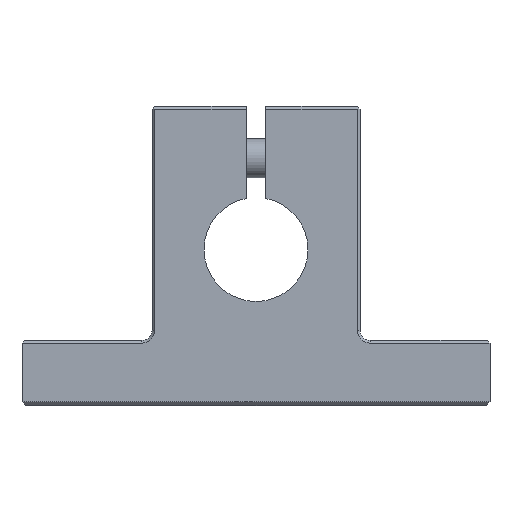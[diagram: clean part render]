
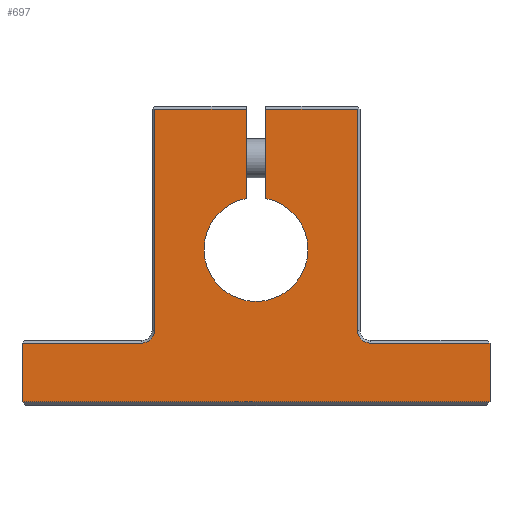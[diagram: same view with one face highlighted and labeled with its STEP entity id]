
A CAD part, left-side view. The second image highlights one B-rep face of the part: STEP entity #697.
In plain terms, the highlighted planar face has unit normal (-1, 0, 0).
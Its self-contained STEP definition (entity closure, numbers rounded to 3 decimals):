
#441=CARTESIAN_POINT('',(0.0,-18.,-11.7));
#442=VERTEX_POINT('',#441);
#443=CARTESIAN_POINT('',(0.0,18.,-11.7));
#444=VERTEX_POINT('',#443);
#445=CARTESIAN_POINT('',(0.0,-18.,-11.7));
#446=DIRECTION('',(0.0,1.0,0.0));
#447=VECTOR('',#446,36.);
#448=LINE('',#445,#447);
#449=EDGE_CURVE('',#442,#444,#448,.T.);
#566=CARTESIAN_POINT('',(0.0,18.,-7.2));
#567=VERTEX_POINT('',#566);
#568=CARTESIAN_POINT('',(0.0,18.,-11.7));
#569=DIRECTION('',(0.0,0.0,1.0));
#570=VECTOR('',#569,4.5);
#571=LINE('',#568,#570);
#572=EDGE_CURVE('',#444,#567,#571,.T.);
#591=CARTESIAN_POINT('',(0.0,0.0,-2.118));
#592=DIRECTION('',(1.0,0.0,0.0));
#593=DIRECTION('',(0.0,0.0,-1.0));
#594=AXIS2_PLACEMENT_3D('',#591,#592,#593);
#595=PLANE('',#594);
#596=ORIENTED_EDGE('',*,*,#449,.F.);
#597=CARTESIAN_POINT('',(0.0,-18.,-7.2));
#598=VERTEX_POINT('',#597);
#599=CARTESIAN_POINT('',(0.0,-18.,-7.2));
#600=DIRECTION('',(0.0,0.0,-1.0));
#601=VECTOR('',#600,4.5);
#602=LINE('',#599,#601);
#603=EDGE_CURVE('',#598,#442,#602,.T.);
#604=ORIENTED_EDGE('',*,*,#603,.F.);
#605=CARTESIAN_POINT('',(0.0,-8.8,-7.2));
#606=VERTEX_POINT('',#605);
#607=CARTESIAN_POINT('',(0.0,-8.8,-7.2));
#608=DIRECTION('',(0.0,-1.0,0.0));
#609=VECTOR('',#608,9.2);
#610=LINE('',#607,#609);
#611=EDGE_CURVE('',#606,#598,#610,.T.);
#612=ORIENTED_EDGE('',*,*,#611,.F.);
#613=CARTESIAN_POINT('',(0.0,-7.8,-6.2));
#614=VERTEX_POINT('',#613);
#615=CARTESIAN_POINT('',(0.0,-8.8,-6.2));
#616=DIRECTION('',(-1.,0.0,0.0));
#617=DIRECTION('',(0.0,0.707,-0.707));
#618=AXIS2_PLACEMENT_3D('',#615,#616,#617);
#619=CIRCLE('',#618,1.0);
#620=EDGE_CURVE('',#614,#606,#619,.T.);
#621=ORIENTED_EDGE('',*,*,#620,.F.);
#622=CARTESIAN_POINT('',(0.0,-7.8,10.8));
#623=VERTEX_POINT('',#622);
#624=CARTESIAN_POINT('',(0.0,-7.8,10.8));
#625=DIRECTION('',(0.0,0.0,-1.0));
#626=VECTOR('',#625,17.);
#627=LINE('',#624,#626);
#628=EDGE_CURVE('',#623,#614,#627,.T.);
#629=ORIENTED_EDGE('',*,*,#628,.F.);
#630=CARTESIAN_POINT('',(0.0,-0.75,10.8));
#631=VERTEX_POINT('',#630);
#632=CARTESIAN_POINT('',(0.0,-0.75,10.8));
#633=DIRECTION('',(0.0,-1.0,0.0));
#634=VECTOR('',#633,7.05);
#635=LINE('',#632,#634);
#636=EDGE_CURVE('',#631,#623,#635,.T.);
#637=ORIENTED_EDGE('',*,*,#636,.F.);
#638=CARTESIAN_POINT('',(0.0,-0.75,3.929));
#639=VERTEX_POINT('',#638);
#640=CARTESIAN_POINT('',(0.0,-0.75,3.929));
#641=DIRECTION('',(0.0,0.0,1.0));
#642=VECTOR('',#641,6.871);
#643=LINE('',#640,#642);
#644=EDGE_CURVE('',#639,#631,#643,.T.);
#645=ORIENTED_EDGE('',*,*,#644,.F.);
#646=CARTESIAN_POINT('',(0.0,0.75,3.929));
#647=VERTEX_POINT('',#646);
#648=CARTESIAN_POINT('',(0.0,0.0,0.0));
#649=DIRECTION('',(-1.0,0.0,0.0));
#650=DIRECTION('',(0.0,-1.0,0.0));
#651=AXIS2_PLACEMENT_3D('',#648,#649,#650);
#652=CIRCLE('',#651,4.0);
#653=EDGE_CURVE('',#647,#639,#652,.T.);
#654=ORIENTED_EDGE('',*,*,#653,.F.);
#655=CARTESIAN_POINT('',(0.0,0.75,10.8));
#656=VERTEX_POINT('',#655);
#657=CARTESIAN_POINT('',(0.0,0.75,10.8));
#658=DIRECTION('',(0.0,0.0,-1.0));
#659=VECTOR('',#658,6.871);
#660=LINE('',#657,#659);
#661=EDGE_CURVE('',#656,#647,#660,.T.);
#662=ORIENTED_EDGE('',*,*,#661,.F.);
#663=CARTESIAN_POINT('',(0.0,7.8,10.8));
#664=VERTEX_POINT('',#663);
#665=CARTESIAN_POINT('',(0.0,7.8,10.8));
#666=DIRECTION('',(0.0,-1.0,0.0));
#667=VECTOR('',#666,7.05);
#668=LINE('',#665,#667);
#669=EDGE_CURVE('',#664,#656,#668,.T.);
#670=ORIENTED_EDGE('',*,*,#669,.F.);
#671=CARTESIAN_POINT('',(0.0,7.8,-6.2));
#672=VERTEX_POINT('',#671);
#673=CARTESIAN_POINT('',(0.0,7.8,-6.2));
#674=DIRECTION('',(0.0,0.0,1.0));
#675=VECTOR('',#674,17.);
#676=LINE('',#673,#675);
#677=EDGE_CURVE('',#672,#664,#676,.T.);
#678=ORIENTED_EDGE('',*,*,#677,.F.);
#679=CARTESIAN_POINT('',(0.0,8.8,-7.2));
#680=VERTEX_POINT('',#679);
#681=CARTESIAN_POINT('',(0.0,8.8,-6.2));
#682=DIRECTION('',(-1.0,0.0,0.0));
#683=DIRECTION('',(0.0,-0.707,-0.707));
#684=AXIS2_PLACEMENT_3D('',#681,#682,#683);
#685=CIRCLE('',#684,1.);
#686=EDGE_CURVE('',#680,#672,#685,.T.);
#687=ORIENTED_EDGE('',*,*,#686,.F.);
#688=CARTESIAN_POINT('',(0.0,18.,-7.2));
#689=DIRECTION('',(0.0,-1.0,0.0));
#690=VECTOR('',#689,9.2);
#691=LINE('',#688,#690);
#692=EDGE_CURVE('',#567,#680,#691,.T.);
#693=ORIENTED_EDGE('',*,*,#692,.F.);
#694=ORIENTED_EDGE('',*,*,#572,.F.);
#695=EDGE_LOOP('',(#596,#604,#612,#621,#629,#637,#645,#654,#662,#670,#678,#687,#693,#694));
#696=FACE_OUTER_BOUND('',#695,.T.);
#697=ADVANCED_FACE('',(#696),#595,.F.);
